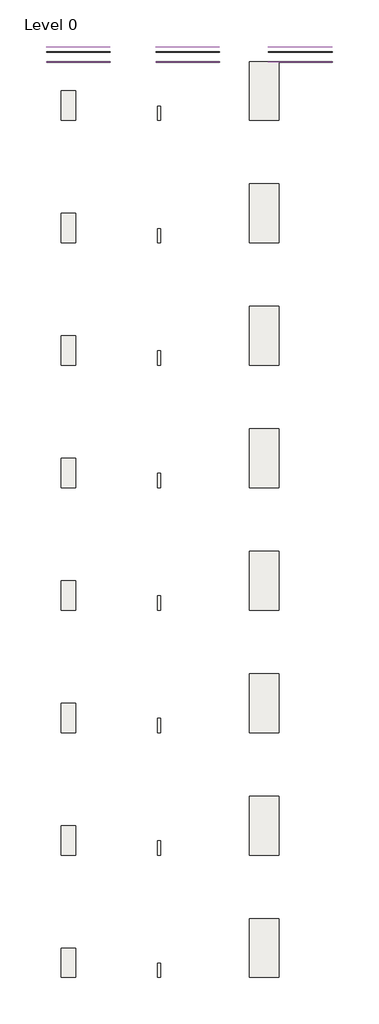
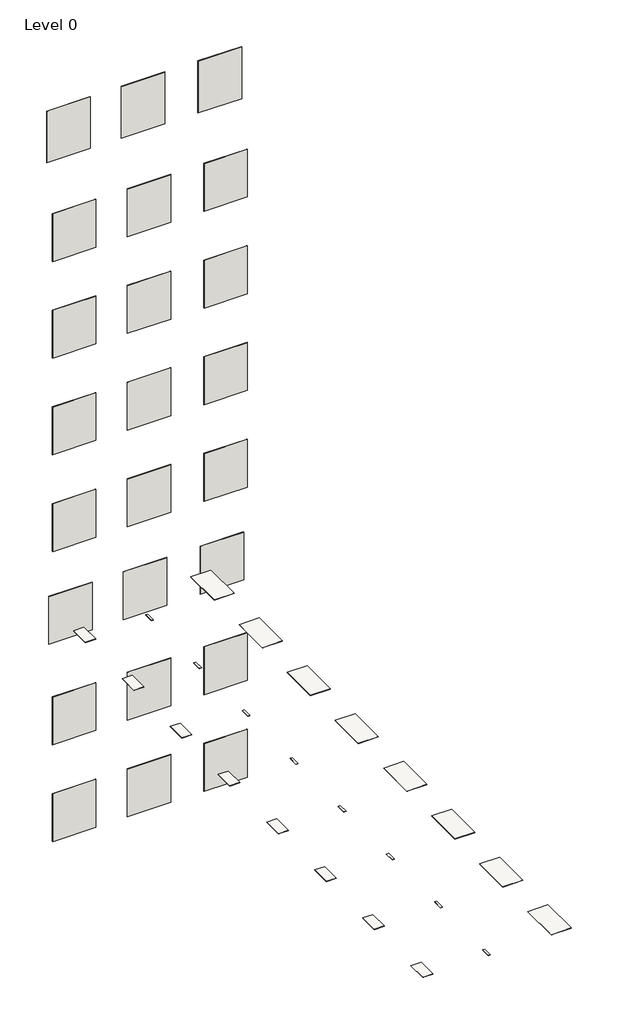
# One storey: 24 slabs, 24 walls.
"""IFC4 building model written with IfcOpenShell, lengths in millimetres."""

from ifc_helpers import new_model, si_unit, frame, origin, place, context, project, spatial, polyline, outline, extrude, element, save

model = new_model("IFC4")

# Units and contexts
model_context = context("Model", 3, world=origin())
ifc_project = project(units=[si_unit("LENGTHUNIT", "METRE", prefix="MILLI")], contexts=[model_context])

# Site, building, storey
site = spatial("IfcSite", under=ifc_project)
building = spatial("IfcBuilding", under=site)
storey = spatial("IfcBuildingStorey", under=building, Name="Level 0", Elevation=0.0)

# Slabs
placement = place(None, origin())
element("IfcSlab", 1, ObjectType="Floor_Tiles_Refin-Upside-Black-30x60 RK33", at=placement, inside=storey, context=model_context, shape_type="SweptSolid", body=[
    extrude(outline(polyline([(6974.3752062, 7239.4623743), (6974.3752062, 6639.4623743), (6674.3752062, 6639.4623743), (6674.3752062, 7239.4623743), (6974.3752062, 7239.4623743)])), frame((0.0, 0.0, -10.0), z_axis=(0.0, 0.0, 1.0), x_axis=(1.0, 0.0, 0.0)), (0.0, 0.0, 1.0), 10.0),
])
element("IfcSlab", 2, ObjectType="Floor_Tiles_Refin-Upside-Black-6,3x29 RK41", at=placement, inside=storey, context=model_context, shape_type="SweptSolid", body=[
    extrude(outline(polyline([(8710.3924055, 6929.4623743), (8710.3924055, 6639.4623743), (8647.3924055, 6639.4623743), (8647.3924055, 6929.4623743), (8710.3924055, 6929.4623743)])), frame((0.0, 0.0, -10.0), z_axis=(0.0, 0.0, 1.0), x_axis=(1.0, 0.0, 0.0)), (0.0, 0.0, 1.0), 10.0),
])
element("IfcSlab", 3, ObjectType="Floor_Tiles_Refin-Upside-Black-60x120 RK25", at=placement, inside=storey, context=model_context, shape_type="SweptSolid", body=[
    extrude(outline(polyline([(11127.1861419, 7839.4623743), (11127.1861419, 6639.4623743), (10527.1861419, 6639.4623743), (10527.1861419, 7839.4623743), (11127.1861419, 7839.4623743)])), frame((0.0, 0.0, -10.0), z_axis=(0.0, 0.0, 1.0), x_axis=(1.0, 0.0, 0.0)), (0.0, 0.0, 1.0), 10.0),
])
element("IfcSlab", 4, ObjectType="Floor_Tiles_Refin-Upside-Blue-30x60 RK34", at=placement, inside=storey, context=model_context, shape_type="SweptSolid", body=[
    extrude(outline(polyline([(6974.3752062, 4739.4623743), (6974.3752062, 4139.4623743), (6674.3752062, 4139.4623743), (6674.3752062, 4739.4623743), (6974.3752062, 4739.4623743)])), frame((0.0, 0.0, -10.0), z_axis=(0.0, 0.0, 1.0), x_axis=(1.0, 0.0, 0.0)), (0.0, 0.0, 1.0), 10.0),
])
element("IfcSlab", 5, ObjectType="Floor_Tiles_Refin-Upside-Blue-6,3x29 RK42", at=placement, inside=storey, context=model_context, shape_type="SweptSolid", body=[
    extrude(outline(polyline([(8710.3924055, 4429.4623743), (8710.3924055, 4139.4623743), (8647.3924055, 4139.4623743), (8647.3924055, 4429.4623743), (8710.3924055, 4429.4623743)])), frame((0.0, 0.0, -10.0), z_axis=(0.0, 0.0, 1.0), x_axis=(1.0, 0.0, 0.0)), (0.0, 0.0, 1.0), 10.0),
])
element("IfcSlab", 6, ObjectType="Floor_Tiles_Refin-Upside-Blue-60x120 RK26", at=placement, inside=storey, context=model_context, shape_type="SweptSolid", body=[
    extrude(outline(polyline([(11127.1861419, 5339.4623743), (11127.1861419, 4139.4623743), (10527.1861419, 4139.4623743), (10527.1861419, 5339.4623743), (11127.1861419, 5339.4623743)])), frame((0.0, 0.0, -10.0), z_axis=(0.0, 0.0, 1.0), x_axis=(1.0, 0.0, 0.0)), (0.0, 0.0, 1.0), 10.0),
])
element("IfcSlab", 7, ObjectType="Floor_Tiles_Refin-Upside-Green-30x60 RK35", at=placement, inside=storey, context=model_context, shape_type="SweptSolid", body=[
    extrude(outline(polyline([(6974.3752062, 2239.4623743), (6974.3752062, 1639.4623743), (6674.3752062, 1639.4623743), (6674.3752062, 2239.4623743), (6974.3752062, 2239.4623743)])), frame((0.0, 0.0, -10.0), z_axis=(0.0, 0.0, 1.0), x_axis=(1.0, 0.0, 0.0)), (0.0, 0.0, 1.0), 10.0),
])
element("IfcSlab", 8, ObjectType="Floor_Tiles_Refin-Upside-Green-6,3x29 RK43", at=placement, inside=storey, context=model_context, shape_type="SweptSolid", body=[
    extrude(outline(polyline([(8710.3924055, 1929.4623743), (8710.3924055, 1639.4623743), (8647.3924055, 1639.4623743), (8647.3924055, 1929.4623743), (8710.3924055, 1929.4623743)])), frame((0.0, 0.0, -10.0), z_axis=(0.0, 0.0, 1.0), x_axis=(1.0, 0.0, 0.0)), (0.0, 0.0, 1.0), 10.0),
])
element("IfcSlab", 9, ObjectType="Floor_Tiles_Refin-Upside-Green-60x120 RK27", at=placement, inside=storey, context=model_context, shape_type="SweptSolid", body=[
    extrude(outline(polyline([(11127.1861419, 2839.4623743), (11127.1861419, 1639.4623743), (10527.1861419, 1639.4623743), (10527.1861419, 2839.4623743), (11127.1861419, 2839.4623743)])), frame((0.0, 0.0, -10.0), z_axis=(0.0, 0.0, 1.0), x_axis=(1.0, 0.0, 0.0)), (0.0, 0.0, 1.0), 10.0),
])
element("IfcSlab", 10, ObjectType="Floor_Tiles_Refin-Upside-Pink-30x60 RK37", at=placement, inside=storey, context=model_context, shape_type="SweptSolid", body=[
    extrude(outline(polyline([(6974.3752062, -260.5376257), (6974.3752062, -860.5376257), (6674.3752062, -860.5376257), (6674.3752062, -260.5376257), (6974.3752062, -260.5376257)])), frame((0.0, 0.0, -10.0), z_axis=(0.0, 0.0, 1.0), x_axis=(1.0, 0.0, 0.0)), (0.0, 0.0, 1.0), 10.0),
])
element("IfcSlab", 11, ObjectType="Floor_Tiles_Refin-Upside-Pink-6,3x29 RK45", at=placement, inside=storey, context=model_context, shape_type="SweptSolid", body=[
    extrude(outline(polyline([(8710.3924055, -570.5376257), (8710.3924055, -860.5376257), (8647.3924055, -860.5376257), (8647.3924055, -570.5376257), (8710.3924055, -570.5376257)])), frame((0.0, 0.0, -10.0), z_axis=(0.0, 0.0, 1.0), x_axis=(1.0, 0.0, 0.0)), (0.0, 0.0, 1.0), 10.0),
])
element("IfcSlab", 12, ObjectType="Floor_Tiles_Refin-Upside-Pink-60x120 RK29", at=placement, inside=storey, context=model_context, shape_type="SweptSolid", body=[
    extrude(outline(polyline([(11127.1861419, 339.4623743), (11127.1861419, -860.5376257), (10527.1861419, -860.5376257), (10527.1861419, 339.4623743), (11127.1861419, 339.4623743)])), frame((0.0, 0.0, -10.0), z_axis=(0.0, 0.0, 1.0), x_axis=(1.0, 0.0, 0.0)), (0.0, 0.0, 1.0), 10.0),
])
element("IfcSlab", 13, ObjectType="Floor_Tiles_Refin-Upside-Red-30x60 RK38", at=placement, inside=storey, context=model_context, shape_type="SweptSolid", body=[
    extrude(outline(polyline([(6974.3752062, -2760.5376257), (6974.3752062, -3360.5376257), (6674.3752062, -3360.5376257), (6674.3752062, -2760.5376257), (6974.3752062, -2760.5376257)])), frame((0.0, 0.0, -10.0), z_axis=(0.0, 0.0, 1.0), x_axis=(1.0, 0.0, 0.0)), (0.0, 0.0, 1.0), 10.0),
])
element("IfcSlab", 14, ObjectType="Floor_Tiles_Refin-Upside-Red-6,3x29 RK46", at=placement, inside=storey, context=model_context, shape_type="SweptSolid", body=[
    extrude(outline(polyline([(8710.3924055, -3070.5376257), (8710.3924055, -3360.5376257), (8647.3924055, -3360.5376257), (8647.3924055, -3070.5376257), (8710.3924055, -3070.5376257)])), frame((0.0, 0.0, -10.0), z_axis=(0.0, 0.0, 1.0), x_axis=(1.0, 0.0, 0.0)), (0.0, 0.0, 1.0), 10.0),
])
element("IfcSlab", 15, ObjectType="Floor_Tiles_Refin-Upside-Red-60x120 RK30", at=placement, inside=storey, context=model_context, shape_type="SweptSolid", body=[
    extrude(outline(polyline([(11127.1861419, -2160.5376257), (11127.1861419, -3360.5376257), (10527.1861419, -3360.5376257), (10527.1861419, -2160.5376257), (11127.1861419, -2160.5376257)])), frame((0.0, 0.0, -10.0), z_axis=(0.0, 0.0, 1.0), x_axis=(1.0, 0.0, 0.0)), (0.0, 0.0, 1.0), 10.0),
])
element("IfcSlab", 16, ObjectType="Floor_Tiles_Refin-Upside-Sky-30x60 RK39", at=placement, inside=storey, context=model_context, shape_type="SweptSolid", body=[
    extrude(outline(polyline([(6974.3752062, -5260.5376257), (6974.3752062, -5860.5376257), (6674.3752062, -5860.5376257), (6674.3752062, -5260.5376257), (6974.3752062, -5260.5376257)])), frame((0.0, 0.0, -10.0), z_axis=(0.0, 0.0, 1.0), x_axis=(1.0, 0.0, 0.0)), (0.0, 0.0, 1.0), 10.0),
])
element("IfcSlab", 17, ObjectType="Floor_Tiles_Refin-Upside-Sky-6,3x29 RK47", at=placement, inside=storey, context=model_context, shape_type="SweptSolid", body=[
    extrude(outline(polyline([(8710.3924055, -5570.5376257), (8710.3924055, -5860.5376257), (8647.3924055, -5860.5376257), (8647.3924055, -5570.5376257), (8710.3924055, -5570.5376257)])), frame((0.0, 0.0, -10.0), z_axis=(0.0, 0.0, 1.0), x_axis=(1.0, 0.0, 0.0)), (0.0, 0.0, 1.0), 10.0),
])
element("IfcSlab", 18, ObjectType="Floor_Tiles_Refin-Upside-Sky-60x120 RK31", at=placement, inside=storey, context=model_context, shape_type="SweptSolid", body=[
    extrude(outline(polyline([(11127.1861419, -4660.5376257), (11127.1861419, -5860.5376257), (10527.1861419, -5860.5376257), (10527.1861419, -4660.5376257), (11127.1861419, -4660.5376257)])), frame((0.0, 0.0, -10.0), z_axis=(0.0, 0.0, 1.0), x_axis=(1.0, 0.0, 0.0)), (0.0, 0.0, 1.0), 10.0),
])
element("IfcSlab", 19, ObjectType="Floor_Tiles_Refin-Upside-White-30x60 RK40", at=placement, inside=storey, context=model_context, shape_type="SweptSolid", body=[
    extrude(outline(polyline([(6974.3752062, -7760.5376257), (6974.3752062, -8360.5376257), (6674.3752062, -8360.5376257), (6674.3752062, -7760.5376257), (6974.3752062, -7760.5376257)])), frame((0.0, 0.0, -10.0), z_axis=(0.0, 0.0, 1.0), x_axis=(1.0, 0.0, 0.0)), (0.0, 0.0, 1.0), 10.0),
])
element("IfcSlab", 20, ObjectType="Floor_Tiles_Refin-Upside-White-6,3x29 RK48", at=placement, inside=storey, context=model_context, shape_type="SweptSolid", body=[
    extrude(outline(polyline([(8710.3924055, -8070.5376257), (8710.3924055, -8360.5376257), (8647.3924055, -8360.5376257), (8647.3924055, -8070.5376257), (8710.3924055, -8070.5376257)])), frame((0.0, 0.0, -10.0), z_axis=(0.0, 0.0, 1.0), x_axis=(1.0, 0.0, 0.0)), (0.0, 0.0, 1.0), 10.0),
])
element("IfcSlab", 21, ObjectType="Floor_Tiles_Refin-Upside-White-60x120 RK32", at=placement, inside=storey, context=model_context, shape_type="SweptSolid", body=[
    extrude(outline(polyline([(11127.1861419, -7160.5376257), (11127.1861419, -8360.5376257), (10527.1861419, -8360.5376257), (10527.1861419, -7160.5376257), (11127.1861419, -7160.5376257)])), frame((0.0, 0.0, -10.0), z_axis=(0.0, 0.0, 1.0), x_axis=(1.0, 0.0, 0.0)), (0.0, 0.0, 1.0), 10.0),
])
element("IfcSlab", 22, ObjectType="Floor_Tiles_Refin-Upside-Yellow-30x60 RK36", at=placement, inside=storey, context=model_context, shape_type="SweptSolid", body=[
    extrude(outline(polyline([(6974.3752062, -10260.5376257), (6974.3752062, -10860.5376257), (6674.3752062, -10860.5376257), (6674.3752062, -10260.5376257), (6974.3752062, -10260.5376257)])), frame((0.0, 0.0, -10.0), z_axis=(0.0, 0.0, 1.0), x_axis=(1.0, 0.0, 0.0)), (0.0, 0.0, 1.0), 10.0),
])
element("IfcSlab", 23, ObjectType="Floor_Tiles_Refin-Upside-Yellow-6,3x29 RK44", at=placement, inside=storey, context=model_context, shape_type="SweptSolid", body=[
    extrude(outline(polyline([(8710.3924055, -10570.5376257), (8710.3924055, -10860.5376257), (8647.3924055, -10860.5376257), (8647.3924055, -10570.5376257), (8710.3924055, -10570.5376257)])), frame((0.0, 0.0, -10.0), z_axis=(0.0, 0.0, 1.0), x_axis=(1.0, 0.0, 0.0)), (0.0, 0.0, 1.0), 10.0),
])
element("IfcSlab", 24, ObjectType="Floor_Tiles_Refin-Upside-Yellow-60x120 RK28", at=placement, inside=storey, context=model_context, shape_type="SweptSolid", body=[
    extrude(outline(polyline([(11127.1861419, -9660.5376257), (11127.1861419, -10860.5376257), (10527.1861419, -10860.5376257), (10527.1861419, -9660.5376257), (11127.1861419, -9660.5376257)])), frame((0.0, 0.0, -10.0), z_axis=(0.0, 0.0, 1.0), x_axis=(1.0, 0.0, 0.0)), (0.0, 0.0, 1.0), 10.0),
])

# Walls
element("IfcWall", 25, ObjectType="Wall_Tiles_Refin-Upside-Black-6,3x29 RK41", at=placement, inside=storey, context=model_context, shape_type="SweptSolid", body=[
    extrude(outline(polyline([(9914.3752062, 8132.3838631), (8614.3752062, 8132.3838631), (8614.3752062, 8142.3838631), (9914.3752062, 8142.3838631), (9914.3752062, 8132.3838631)])), frame((0.0, 0.0, 14387.6770443), z_axis=(0.0, 0.0, 1.0), x_axis=(1.0, 0.0, 0.0)), (0.0, 0.0, 1.0), 1641.7417352),
])
element("IfcWall", 26, ObjectType="Wall_Tiles_Refin-Upside-Black-60x120 RK25", at=placement, inside=storey, context=model_context, shape_type="SweptSolid", body=[
    extrude(outline(polyline([(12214.3752062, 8132.3838631), (10914.3752062, 8132.3838631), (10914.3752062, 8142.3838631), (12214.3752062, 8142.3838631), (12214.3752062, 8132.3838631)])), frame((0.0, 0.0, 14387.6770443), z_axis=(0.0, 0.0, 1.0), x_axis=(1.0, 0.0, 0.0)), (0.0, 0.0, 1.0), 1641.7417352),
])
element("IfcWall", 27, ObjectType="Wall_Tiles_Refin-Upside-Black-30x60 RK33", at=placement, inside=storey, context=model_context, shape_type="SweptSolid", body=[
    extrude(outline(polyline([(7674.3752062, 8132.3838631), (6374.3752062, 8132.3838631), (6374.3752062, 8142.3838631), (7674.3752062, 8142.3838631), (7674.3752062, 8132.3838631)])), frame((0.0, 0.0, 14403.7267346), z_axis=(0.0, 0.0, 1.0), x_axis=(1.0, 0.0, 0.0)), (0.0, 0.0, 1.0), 1625.692045),
])
element("IfcWall", 28, ObjectType="Wall_Tiles_Refin-Upside-Blue-30x60 RK34", at=placement, inside=storey, context=model_context, shape_type="SweptSolid", body=[
    extrude(outline(polyline([(7674.3752062, 7827.3838631), (6374.3752062, 7827.3838631), (6374.3752062, 7837.3838631), (7674.3752062, 7837.3838631), (7674.3752062, 7827.3838631)])), frame((0.0, 0.0, 11452.5436262), z_axis=(0.0, 0.0, 1.0), x_axis=(1.0, 0.0, 0.0)), (0.0, 0.0, 1.0), 1513.1985566),
])
element("IfcWall", 29, ObjectType="Wall_Tiles_Refin-Upside-Blue-6,3x29 RK42", at=placement, inside=storey, context=model_context, shape_type="SweptSolid", body=[
    extrude(outline(polyline([(9914.3752062, 7827.3838631), (8614.3752062, 7827.3838631), (8614.3752062, 7837.3838631), (9914.3752062, 7837.3838631), (9914.3752062, 7827.3838631)])), frame((0.0, 0.0, 11452.5436262), z_axis=(0.0, 0.0, 1.0), x_axis=(1.0, 0.0, 0.0)), (0.0, 0.0, 1.0), 1513.1985566),
])
element("IfcWall", 30, ObjectType="Wall_Tiles_Refin-Upside-Blue-60x120 RK26", at=placement, inside=storey, context=model_context, shape_type="SweptSolid", body=[
    extrude(outline(polyline([(12214.3752062, 7827.3838631), (10914.3752062, 7827.3838631), (10914.3752062, 7837.3838631), (12214.3752062, 7837.3838631), (12214.3752062, 7827.3838631)])), frame((0.0, 0.0, 11452.5436262), z_axis=(0.0, 0.0, 1.0), x_axis=(1.0, 0.0, 0.0)), (0.0, 0.0, 1.0), 1513.1985566),
])
element("IfcWall", 31, ObjectType="Wall_Tiles_Refin-Upside-Green-30x60 RK35", at=placement, inside=storey, context=model_context, shape_type="SweptSolid", body=[
    extrude(outline(polyline([(7674.3752062, 7827.3838631), (6374.3752062, 7827.3838631), (6374.3752062, 7837.3838631), (7674.3752062, 7837.3838631), (7674.3752062, 7827.3838631)])), frame((0.0, 0.0, 8388.8670295), z_axis=(0.0, 0.0, 1.0), x_axis=(1.0, 0.0, 0.0)), (0.0, 0.0, 1.0), 1513.1985566),
])
element("IfcWall", 32, ObjectType="Wall_Tiles_Refin-Upside-Green-6,3x29 RK43", at=placement, inside=storey, context=model_context, shape_type="SweptSolid", body=[
    extrude(outline(polyline([(9914.3752062, 7827.3838631), (8614.3752062, 7827.3838631), (8614.3752062, 7837.3838631), (9914.3752062, 7837.3838631), (9914.3752062, 7827.3838631)])), frame((0.0, 0.0, 8388.8670295), z_axis=(0.0, 0.0, 1.0), x_axis=(1.0, 0.0, 0.0)), (0.0, 0.0, 1.0), 1513.1985566),
])
element("IfcWall", 33, ObjectType="Wall_Tiles_Refin-Upside-Green-60x120 RK27", at=placement, inside=storey, context=model_context, shape_type="SweptSolid", body=[
    extrude(outline(polyline([(12214.3752062, 7827.3838631), (10914.3752062, 7827.3838631), (10914.3752062, 7837.3838631), (12214.3752062, 7837.3838631), (12214.3752062, 7827.3838631)])), frame((0.0, 0.0, 8388.8670295), z_axis=(0.0, 0.0, 1.0), x_axis=(1.0, 0.0, 0.0)), (0.0, 0.0, 1.0), 1513.1985566),
])
element("IfcWall", 34, ObjectType="Wall_Tiles_Refin-Upside-Pink-30x60 RK37", at=placement, inside=storey, context=model_context, shape_type="SweptSolid", body=[
    extrude(outline(polyline([(7674.3752062, 7827.3838631), (6374.3752062, 7827.3838631), (6374.3752062, 7837.3838631), (7674.3752062, 7837.3838631), (7674.3752062, 7827.3838631)])), frame((0.0, 0.0, 5325.1904327), z_axis=(0.0, 0.0, 1.0), x_axis=(1.0, 0.0, 0.0)), (0.0, 0.0, 1.0), 1513.1985566),
])
element("IfcWall", 35, ObjectType="Wall_Tiles_Refin-Upside-Pink-6,3x29 RK45", at=placement, inside=storey, context=model_context, shape_type="SweptSolid", body=[
    extrude(outline(polyline([(9914.3752062, 7827.3838631), (8614.3752062, 7827.3838631), (8614.3752062, 7837.3838631), (9914.3752062, 7837.3838631), (9914.3752062, 7827.3838631)])), frame((0.0, 0.0, 5325.1904327), z_axis=(0.0, 0.0, 1.0), x_axis=(1.0, 0.0, 0.0)), (0.0, 0.0, 1.0), 1513.1985566),
])
element("IfcWall", 36, ObjectType="Wall_Tiles_Refin-Upside-Pink-60x120 RK29", at=placement, inside=storey, context=model_context, shape_type="SweptSolid", body=[
    extrude(outline(polyline([(12214.3752062, 7827.3838631), (10914.3752062, 7827.3838631), (10914.3752062, 7837.3838631), (12214.3752062, 7837.3838631), (12214.3752062, 7827.3838631)])), frame((0.0, 0.0, 5325.1904327), z_axis=(0.0, 0.0, 1.0), x_axis=(1.0, 0.0, 0.0)), (0.0, 0.0, 1.0), 1513.1985566),
])
element("IfcWall", 37, ObjectType="Wall_Tiles_Refin-Upside-Red-30x60 RK38", at=placement, inside=storey, context=model_context, shape_type="SweptSolid", body=[
    extrude(outline(polyline([(7674.3752062, 7827.3838631), (6374.3752062, 7827.3838631), (6374.3752062, 7837.3838631), (7674.3752062, 7837.3838631), (7674.3752062, 7827.3838631)])), frame((0.0, 0.0, 2261.5138359), z_axis=(0.0, 0.0, 1.0), x_axis=(1.0, 0.0, 0.0)), (0.0, 0.0, 1.0), 1513.1985566),
])
element("IfcWall", 38, ObjectType="Wall_Tiles_Refin-Upside-Red-6,3x29 RK46", at=placement, inside=storey, context=model_context, shape_type="SweptSolid", body=[
    extrude(outline(polyline([(9914.3752062, 7827.3838631), (8614.3752062, 7827.3838631), (8614.3752062, 7837.3838631), (9914.3752062, 7837.3838631), (9914.3752062, 7827.3838631)])), frame((0.0, 0.0, 2261.5138359), z_axis=(0.0, 0.0, 1.0), x_axis=(1.0, 0.0, 0.0)), (0.0, 0.0, 1.0), 1513.1985566),
])
element("IfcWall", 39, ObjectType="Wall_Tiles_Refin-Upside-Red-60x120 RK30", at=placement, inside=storey, context=model_context, shape_type="SweptSolid", body=[
    extrude(outline(polyline([(12214.3752062, 7827.3838631), (10914.3752062, 7827.3838631), (10914.3752062, 7837.3838631), (12214.3752062, 7837.3838631), (12214.3752062, 7827.3838631)])), frame((0.0, 0.0, 2261.5138359), z_axis=(0.0, 0.0, 1.0), x_axis=(1.0, 0.0, 0.0)), (0.0, 0.0, 1.0), 1513.1985566),
])
element("IfcWall", 40, ObjectType="Wall_Tiles_Refin-Upside-Sky-30x60 RK39", at=placement, inside=storey, context=model_context, shape_type="SweptSolid", body=[
    extrude(outline(polyline([(7674.3752062, 8027.3838631), (6374.3752062, 8027.3838631), (6374.3752062, 8037.3838631), (7674.3752062, 8037.3838631), (7674.3752062, 8027.3838631)])), frame((0.0, 0.0, -802.1627608), z_axis=(0.0, 0.0, 1.0), x_axis=(1.0, 0.0, 0.0)), (0.0, 0.0, 1.0), 1513.1985566),
])
element("IfcWall", 41, ObjectType="Wall_Tiles_Refin-Upside-Sky-6,3x29 RK47", at=placement, inside=storey, context=model_context, shape_type="SweptSolid", body=[
    extrude(outline(polyline([(9914.3752062, 8027.3838631), (8614.3752062, 8027.3838631), (8614.3752062, 8037.3838631), (9914.3752062, 8037.3838631), (9914.3752062, 8027.3838631)])), frame((0.0, 0.0, -802.1627608), z_axis=(0.0, 0.0, 1.0), x_axis=(1.0, 0.0, 0.0)), (0.0, 0.0, 1.0), 1513.1985566),
])
element("IfcWall", 42, ObjectType="Wall_Tiles_Refin-Upside-Sky-60x120 RK31", at=placement, inside=storey, context=model_context, shape_type="SweptSolid", body=[
    extrude(outline(polyline([(12214.3752062, 8027.3838631), (10914.3752062, 8027.3838631), (10914.3752062, 8037.3838631), (12214.3752062, 8037.3838631), (12214.3752062, 8027.3838631)])), frame((0.0, 0.0, -802.1627608), z_axis=(0.0, 0.0, 1.0), x_axis=(1.0, 0.0, 0.0)), (0.0, 0.0, 1.0), 1513.1985566),
])
element("IfcWall", 43, ObjectType="Wall_Tiles_Refin-Upside-White-30x60 RK40", at=placement, inside=storey, context=model_context, shape_type="SweptSolid", body=[
    extrude(outline(polyline([(7674.3752062, 7827.3838631), (6374.3752062, 7827.3838631), (6374.3752062, 7837.3838631), (7674.3752062, 7837.3838631), (7674.3752062, 7827.3838631)])), frame((0.0, 0.0, -3865.8393576), z_axis=(0.0, 0.0, 1.0), x_axis=(1.0, 0.0, 0.0)), (0.0, 0.0, 1.0), 1513.1985566),
])
element("IfcWall", 44, ObjectType="Wall_Tiles_Refin-Upside-White-6,3x29 RK48", at=placement, inside=storey, context=model_context, shape_type="SweptSolid", body=[
    extrude(outline(polyline([(9914.3752062, 7827.3838631), (8614.3752062, 7827.3838631), (8614.3752062, 7837.3838631), (9914.3752062, 7837.3838631), (9914.3752062, 7827.3838631)])), frame((0.0, 0.0, -3865.8393576), z_axis=(0.0, 0.0, 1.0), x_axis=(1.0, 0.0, 0.0)), (0.0, 0.0, 1.0), 1513.1985566),
])
element("IfcWall", 45, ObjectType="Wall_Tiles_Refin-Upside-White-60x120 RK32", at=placement, inside=storey, context=model_context, shape_type="SweptSolid", body=[
    extrude(outline(polyline([(12214.3752062, 7827.3838631), (10914.3752062, 7827.3838631), (10914.3752062, 7837.3838631), (12214.3752062, 7837.3838631), (12214.3752062, 7827.3838631)])), frame((0.0, 0.0, -3865.8393576), z_axis=(0.0, 0.0, 1.0), x_axis=(1.0, 0.0, 0.0)), (0.0, 0.0, 1.0), 1513.1985566),
])
element("IfcWall", 46, ObjectType="Wall_Tiles_Refin-Upside-Yellow-30x60 RK36", at=placement, inside=storey, context=model_context, shape_type="SweptSolid", body=[
    extrude(outline(polyline([(7674.3752062, 7827.3838631), (6374.3752062, 7827.3838631), (6374.3752062, 7837.3838631), (7674.3752062, 7837.3838631), (7674.3752062, 7827.3838631)])), frame((0.0, 0.0, -6929.5159544), z_axis=(0.0, 0.0, 1.0), x_axis=(1.0, 0.0, 0.0)), (0.0, 0.0, 1.0), 1513.1985566),
])
element("IfcWall", 47, ObjectType="Wall_Tiles_Refin-Upside-Yellow-6,3x29 RK44", at=placement, inside=storey, context=model_context, shape_type="SweptSolid", body=[
    extrude(outline(polyline([(9914.3752062, 7827.3838631), (8614.3752062, 7827.3838631), (8614.3752062, 7837.3838631), (9914.3752062, 7837.3838631), (9914.3752062, 7827.3838631)])), frame((0.0, 0.0, -6929.5159544), z_axis=(0.0, 0.0, 1.0), x_axis=(1.0, 0.0, 0.0)), (0.0, 0.0, 1.0), 1513.1985566),
])
element("IfcWall", 48, ObjectType="Wall_Tiles_Refin-Upside-Yellow-60x120 RK28", at=placement, inside=storey, context=model_context, shape_type="SweptSolid", body=[
    extrude(outline(polyline([(12214.3752062, 7827.3838631), (10914.3752062, 7827.3838631), (10914.3752062, 7837.3838631), (12214.3752062, 7837.3838631), (12214.3752062, 7827.3838631)])), frame((0.0, 0.0, -6929.5159544), z_axis=(0.0, 0.0, 1.0), x_axis=(1.0, 0.0, 0.0)), (0.0, 0.0, 1.0), 1513.1985566),
])

save(model, "model.ifc")
